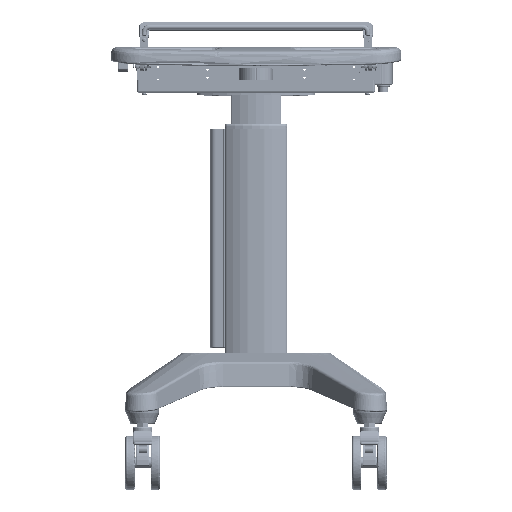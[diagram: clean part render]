
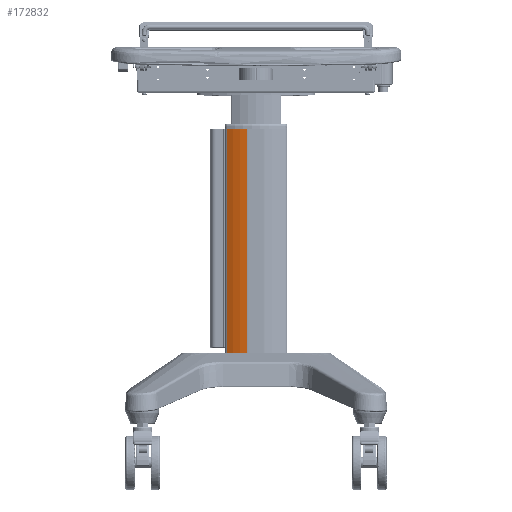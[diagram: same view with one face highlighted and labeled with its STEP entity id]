
A CAD part, top view. The second image highlights one B-rep face of the part: STEP entity #172832.
In plain terms, the highlighted cylindrical face has radius 104.286 mm (diameter 208.571 mm), a partial arc.
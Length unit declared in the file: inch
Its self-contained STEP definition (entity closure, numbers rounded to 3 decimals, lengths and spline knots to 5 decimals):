
#4466=CYLINDRICAL_SURFACE('',#186188,4.10574);
#7949=CIRCLE('',#186032,4.10574);
#8025=CIRCLE('',#186116,4.10574);
#14035=FACE_OUTER_BOUND('',#23946,.T.);
#23946=EDGE_LOOP('',(#125633,#125634,#125635,#125636));
#35087=LINE('',#310092,#52114);
#35088=LINE('',#310094,#52115);
#52114=VECTOR('',#208592,16.92913);
#52115=VECTOR('',#208595,16.92913);
#73552=VERTEX_POINT('',#309620);
#73553=VERTEX_POINT('',#309622);
#73664=VERTEX_POINT('',#309857);
#73665=VERTEX_POINT('',#309859);
#92969=EDGE_CURVE('',#73552,#73553,#7949,.T.);
#93086=EDGE_CURVE('',#73664,#73665,#8025,.T.);
#93204=EDGE_CURVE('',#73664,#73553,#35087,.T.);
#93205=EDGE_CURVE('',#73665,#73552,#35088,.T.);
#125633=ORIENTED_EDGE('',*,*,#93204,.T.);
#125634=ORIENTED_EDGE('',*,*,#92969,.F.);
#125635=ORIENTED_EDGE('',*,*,#93205,.F.);
#125636=ORIENTED_EDGE('',*,*,#93086,.F.);
#172832=ADVANCED_FACE('',(#14035),#4466,.T.);
#186032=AXIS2_PLACEMENT_3D('',#309623,#208190,#208191);
#186116=AXIS2_PLACEMENT_3D('',#309860,#208399,#208400);
#186188=AXIS2_PLACEMENT_3D('',#310093,#208593,#208594);
#208190=DIRECTION('center_axis',(0.,-1.,0.));
#208191=DIRECTION('ref_axis',(0.154,0.,-0.988));
#208399=DIRECTION('center_axis',(0.,1.,0.));
#208400=DIRECTION('ref_axis',(0.519,0.,-0.855));
#208592=DIRECTION('',(0.,-1.,0.));
#208593=DIRECTION('center_axis',(0.,1.,0.));
#208594=DIRECTION('ref_axis',(1.,0.,0.));
#208595=DIRECTION('',(0.,-1.,0.));
#309620=CARTESIAN_POINT('',(0.63058,0.,-2.19538));
#309622=CARTESIAN_POINT('',(2.13206,0.,-1.64712));
#309623=CARTESIAN_POINT('Origin',(0.,0.,1.86164));
#309857=CARTESIAN_POINT('',(2.13206,16.92913,-1.64712));
#309859=CARTESIAN_POINT('',(0.63058,16.92913,-2.19538));
#309860=CARTESIAN_POINT('Origin',(0.,16.92913,1.86164));
#310092=CARTESIAN_POINT('',(2.13206,16.92913,-1.64712));
#310093=CARTESIAN_POINT('Origin',(0.,0.,1.86164));
#310094=CARTESIAN_POINT('',(0.63058,16.92913,-2.19538));
